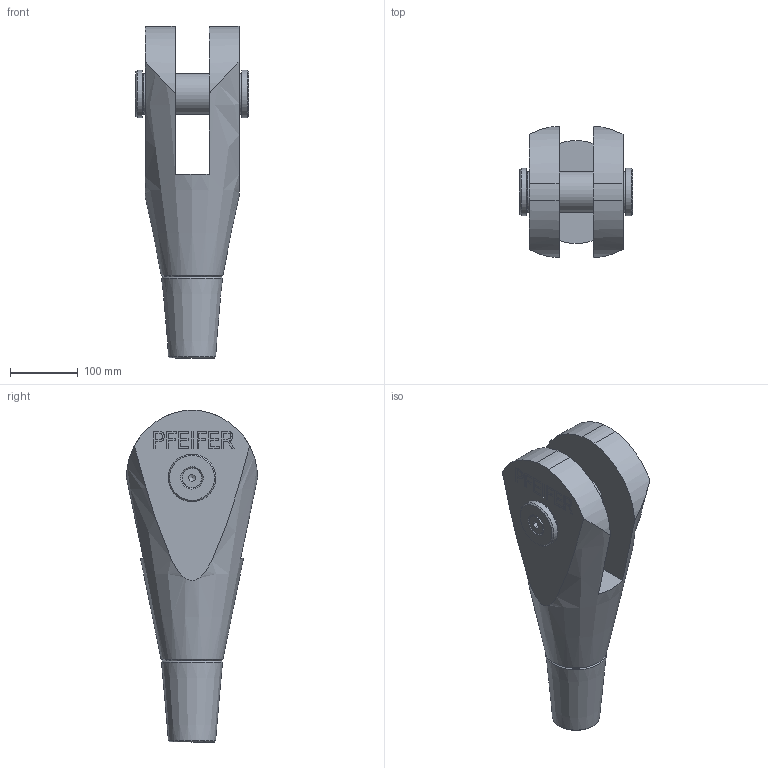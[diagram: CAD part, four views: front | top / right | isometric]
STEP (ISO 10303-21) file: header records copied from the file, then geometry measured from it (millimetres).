
FILE_DESCRIPTION(/* description */ (''),/* implementation_level */ '2;1');
FILE_NAME(/* name */ 'C:\Vault_WS\Designs\520-060-GAK.stp',/* time_stamp */ '2020-06-25T07:57:33+02:00',/* author */ ('schwarz'),/* organization */ (''),/* preprocessor_version */ 'ST-DEVELOPER v16.1',/* originating_system */ 'Autodesk Inventor 2016',/* authorisation */ '');
FILE_SCHEMA (('AUTOMOTIVE_DESIGN { 1 0 10303 214 3 1 1 }'));
Length unit declared in the file: centimetre
Products named in the file (1): 520-060-GAK-KMU-Kunde
Bounding box: 166.3 x 193.09 x 488.39 mm (x, y, z)
Volume: 5082995.6 mm3; surface area: 342388.2 mm2
Topology: 2 solids, 4 shells, 186 faces, 483 edges, 320 vertices
Faces by surface type: plane 136, bspline 21, cylinder 16, cone 13
Full cylindrical faces by diameter (mm): 13.835 x1, 16 x1, 17.5 x1, 29.01 x1, 60 x1, 62.5 x1, 63 x2, 70 x2
Entity records: 5785 total; most frequent: CARTESIAN_POINT 1280, ORIENTED_EDGE 900, DIRECTION 768, EDGE_CURVE 450, LINE 348, VECTOR 348, VERTEX_POINT 310, EDGE_LOOP 230
